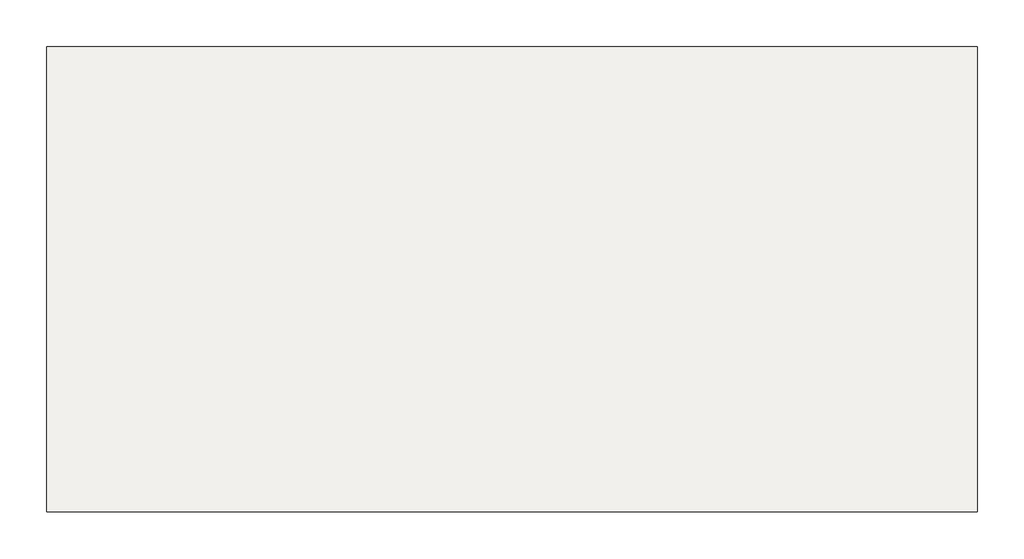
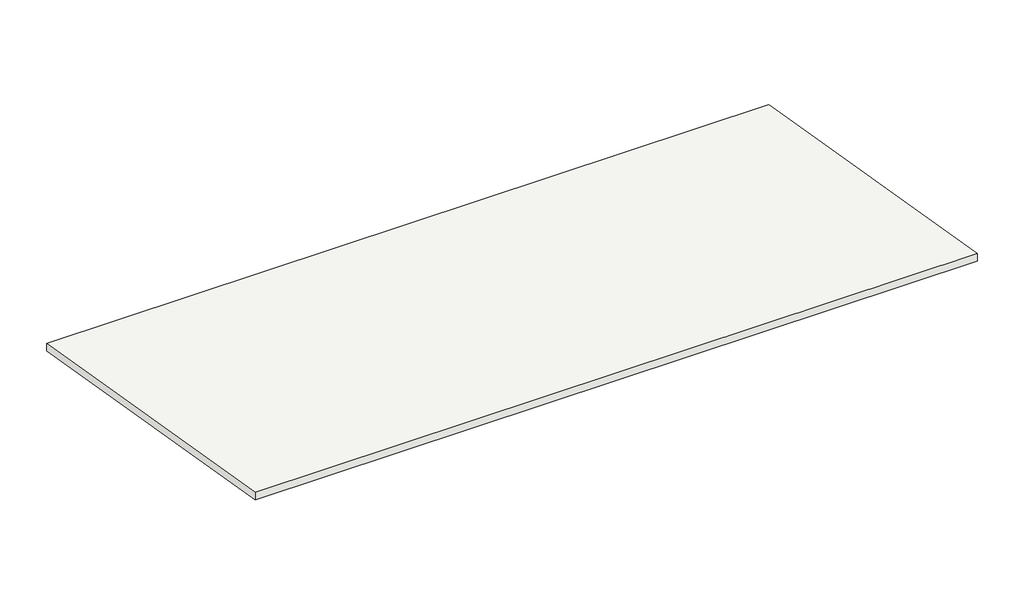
# One storey: 1 roof.
"""IFC4 building model written with IfcOpenShell, lengths in millimetres."""

from ifc_helpers import new_model, si_unit, frame, origin, place, context, project, spatial, polyline, outline, extrude, element, save

model = new_model("IFC4")

# Units and contexts
model_context = context("Model", 3, world=origin())
ifc_project = project(units=[si_unit("LENGTHUNIT", "METRE", prefix="MILLI")], contexts=[model_context])

# Site, building, storey
site = spatial("IfcSite", under=ifc_project)
building = spatial("IfcBuilding", under=site)
storey = spatial("IfcBuildingStorey", under=building, Name="标高 5", Elevation=10200.0)

# Roof
placement = place(None, origin())
element("IfcRoof", 1, ObjectType="常规 - 150", at=placement, inside=storey, context=model_context, shape_type="SweptSolid", body=[
    extrude(outline(polyline([(-5669.5294667, 10351.5017551), (1230.4705333, 9178.2595526), (1230.4705333, 9026.1066079), (-5669.5294667, 10199.3488105), (-5669.5294667, 10351.5017551)])), frame((-8739.5311174, 0.0, 0.0), z_axis=(1.0, 0.0, 0.0), x_axis=(0.0, 1.0, 0.0)), (0.0, 0.0, 1.0), 13800.0),
])

save(model, "model.ifc")
